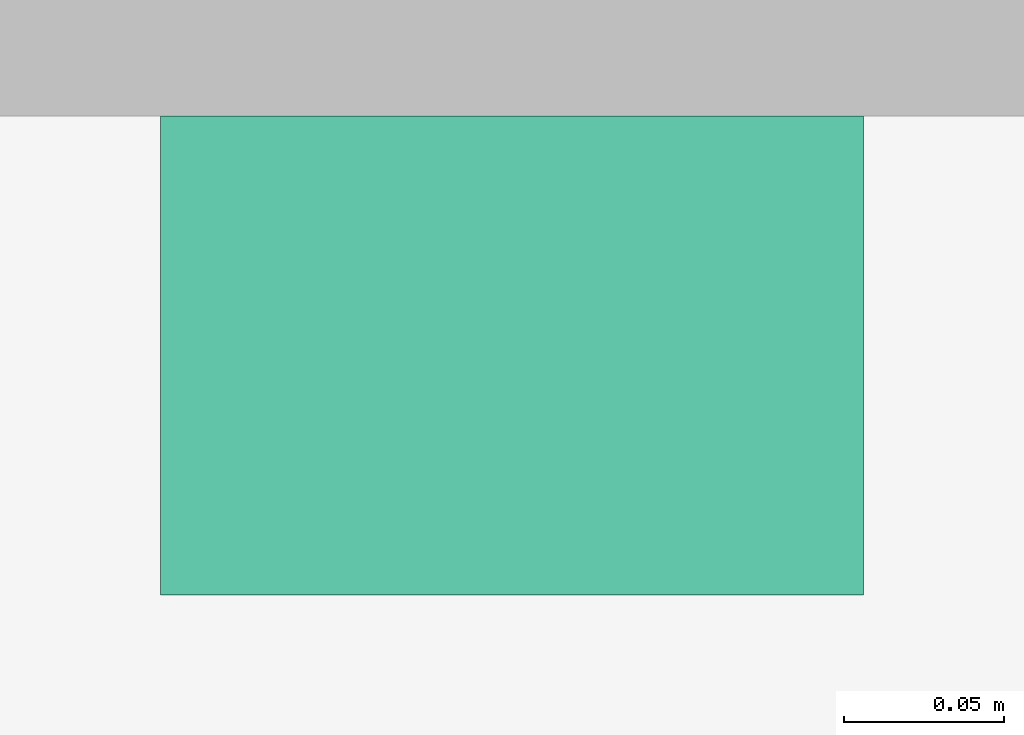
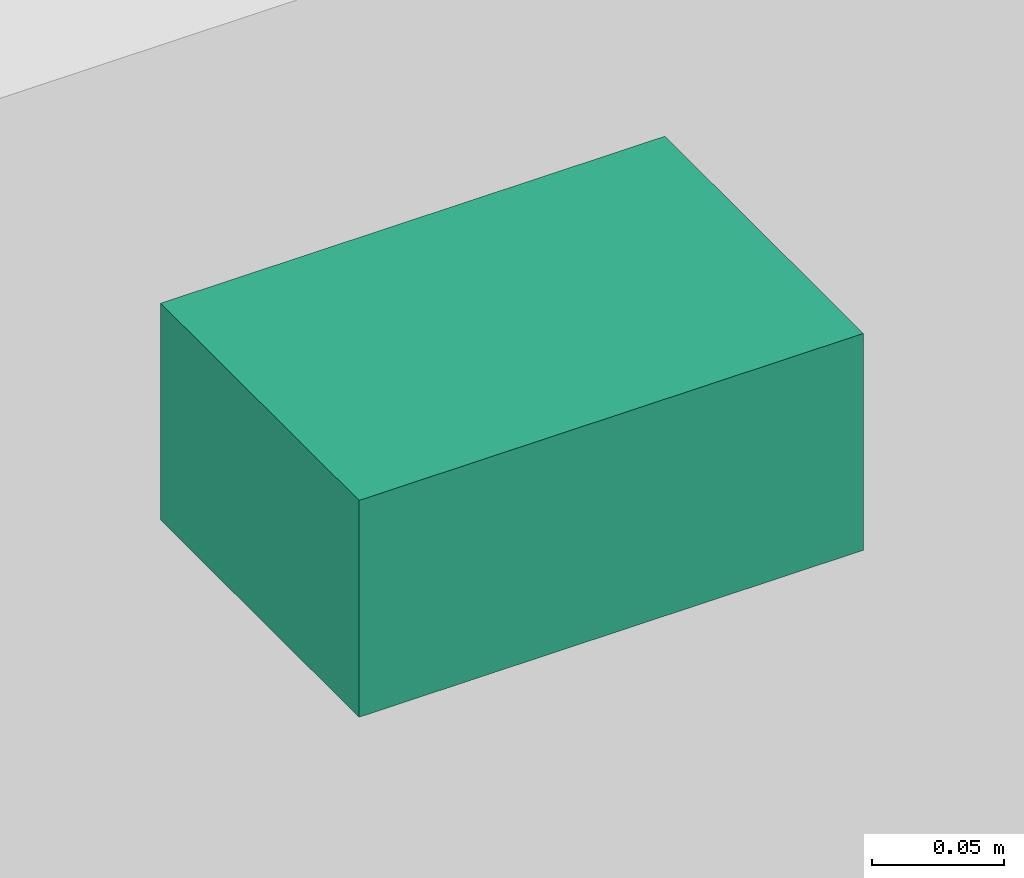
# One storey, part 78 of 128: 1 flow terminal.
"""IFC2X3 building model written with IfcOpenShell, lengths in metres."""

from ifc_helpers import new_model, entity, si_unit, converted_unit, derived_unit, direction, frame, origin, place, context, subcontext, project, spatial, face_set, surface_model, source, transform, mapped, material, type_object, type_shapes, element, save


model = new_model("IFC2X3")

# Units and contexts
model_context = context("Model", 3, precision=1e-05, world=origin(), true_north=direction((6.123031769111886e-17, 1.0)))
body_context = subcontext(model_context, "Body", "Model", "MODEL_VIEW")
ifc_project = project(units=[si_unit("LENGTHUNIT", "METRE"), si_unit("AREAUNIT", "SQUARE_METRE"), converted_unit("PLANEANGLEUNIT", "DEGREE", entity("IfcPlaneAngleMeasure", 0.017453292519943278), si_unit("PLANEANGLEUNIT", "RADIAN"), dimensions=[0, 0, 0, 0, 0, 0, 0]), derived_unit("THERMALTRANSMITTANCEUNIT", [(si_unit("MASSUNIT", "GRAM", prefix="KILO"), 1), (si_unit("THERMODYNAMICTEMPERATUREUNIT", "KELVIN"), -1), (si_unit("TIMEUNIT", "SECOND"), -3)])], contexts=[model_context])

# Site, building, storey
site_placement = place(None, origin())
site = spatial("IfcSite", under=ifc_project, at=site_placement, Name="Default", CompositionType="ELEMENT")
building_placement = place(site_placement, origin())
building = spatial("IfcBuilding", under=site, at=building_placement, CompositionType="ELEMENT")
storey_placement = place(building_placement, origin())
storey = spatial("IfcBuildingStorey", under=building, at=storey_placement, Name="00_RDC CAF", CompositionType="ELEMENT", Elevation=2.4982504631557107e-13)

# Flow terminal
ifc_material = material(Name="ARC - Eq Elec - Blanc")
light_fixture_type = type_object("IfcLightFixtureType", Name="Eq_Elec_Eclairage_secours_BAES:Eq_Elec_Eclairage secours BAES_220x35x100mm", PredefinedType="NOTDEFINED", material=ifc_material)
shared_shape = source(origin(), body_context, "Body", "SurfaceModel", [
    surface_model("IfcFaceBasedSurfaceModel", [(0.02393298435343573, 0.04999999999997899, 0.09396213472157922), (0.022340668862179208, 0.04999999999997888, 0.0857472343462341), (0.018130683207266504, 0.04999999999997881, 0.07955891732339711), (0.012183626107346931, 0.04999999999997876, 0.07496291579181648), (0.005404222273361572, 0.049999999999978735, 0.07133195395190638), (-0.001375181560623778, 0.04999999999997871, 0.06795431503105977), (-0.00732223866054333, 0.04999999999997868, 0.06416653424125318), (-0.011532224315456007, 0.04999999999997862, 0.0593292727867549), (-0.013124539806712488, 0.049999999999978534, 0.052754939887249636), (-0.012243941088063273, 0.04999999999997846, 0.04756785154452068), (-0.009614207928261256, 0.04999999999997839, 0.04328548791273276), (-0.0051991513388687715, 0.04999999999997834, 0.040402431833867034), (0.0010374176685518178, 0.049999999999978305, 0.039340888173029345), (0.007503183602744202, 0.0499999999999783, 0.04029386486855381), (0.012400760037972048, 0.04999999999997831, 0.04242901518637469), (0.015814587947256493, 0.04999999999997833, 0.04456416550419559), (0.018046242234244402, 0.04999999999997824, 0.03870154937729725), (0.015681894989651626, 0.04999999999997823, 0.03700066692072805), (0.011616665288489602, 0.049999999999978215, 0.035094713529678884), (0.00677940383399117, 0.049999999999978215, 0.033707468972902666), (0.0017129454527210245, 0.04999999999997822, 0.03316463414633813), (-0.0074308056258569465, 0.04999999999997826, 0.03451568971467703), (-0.01458416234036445, 0.04999999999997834, 0.03842410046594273), (-0.019204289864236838, 0.04999999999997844, 0.044648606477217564), (-0.0208448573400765, 0.049999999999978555, 0.05292382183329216), (-0.019252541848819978, 0.049999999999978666, 0.06123522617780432), (-0.015042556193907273, 0.04999999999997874, 0.06743560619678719), (-0.009107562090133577, 0.049999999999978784, 0.07205573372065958), (-0.0023160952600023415, 0.04999999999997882, 0.07572288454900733), (0.004475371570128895, 0.049999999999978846, 0.07908846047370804), (0.01041036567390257, 0.04999999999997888, 0.08284005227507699), (0.014620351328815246, 0.04999999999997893, 0.08765318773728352), (0.01621266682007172, 0.04999999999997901, 0.09420339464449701), (0.014921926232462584, 0.04999999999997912, 0.10105517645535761), (0.011315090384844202, 0.04999999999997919, 0.10612163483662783), (0.005802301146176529, 0.04999999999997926, 0.10927007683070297), (-0.0012304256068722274, 0.0499999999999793, 0.11036780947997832), (-0.00948151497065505, 0.049999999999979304, 0.10914944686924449), (-0.015561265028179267, 0.04999999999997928, 0.10650765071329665), (-0.019698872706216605, 0.04999999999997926, 0.10386585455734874), (-0.023932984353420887, 0.049999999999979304, 0.10585624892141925), (-0.023619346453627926, 0.049999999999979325, 0.10796727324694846), (-0.02261811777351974, 0.049999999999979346, 0.10961990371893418), (-0.02009695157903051, 0.04999999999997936, 0.11156204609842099), (-0.015585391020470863, 0.04999999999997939, 0.11382988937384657), (-0.009481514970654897, 0.049999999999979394, 0.11574790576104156), (-0.002171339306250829, 0.04999999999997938, 0.11654406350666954), (0.008299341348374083, 0.049999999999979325, 0.11499999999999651), (0.016586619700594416, 0.04999999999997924, 0.11053669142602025), (0.022002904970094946, 0.049999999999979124, 0.10343158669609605), (0.023932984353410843, -0.014873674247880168, 0.14999999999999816), (0.022340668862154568, -0.006658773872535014, 0.14999999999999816), (0.01813068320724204, -0.000470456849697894, 0.14999999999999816), (0.012183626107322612, 0.004125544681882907, 0.14999999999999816), (0.0054042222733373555, 0.007756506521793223, 0.14999999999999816), (-0.0013751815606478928, 0.011134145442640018, 0.14999999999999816), (-0.007322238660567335, 0.01492192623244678, 0.14999999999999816), (-0.01153222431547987, 0.019759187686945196, 0.14999999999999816), (-0.013124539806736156, 0.0263335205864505, 0.14999999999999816), (-0.012243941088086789, 0.03152060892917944, 0.14999999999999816), (-0.009614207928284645, 0.035802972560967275, 0.14999999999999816), (-0.005199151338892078, 0.03868602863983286, 0.14999999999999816), (0.0010374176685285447, 0.03974757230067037, 0.14999999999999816), (0.007503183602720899, 0.03879459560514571, 0.14999999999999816), (0.012400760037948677, 0.036659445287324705, 0.14999999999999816), (0.015814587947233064, 0.03452429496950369, 0.14999999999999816), (0.018046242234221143, 0.04038691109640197, 0.14999999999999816), (0.015681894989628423, 0.04208779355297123, 0.14999999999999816), (0.011616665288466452, 0.04399374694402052, 0.14999999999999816), (0.006779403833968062, 0.04538099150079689, 0.14999999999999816), (0.0017129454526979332, 0.04592382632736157, 0.14999999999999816), (-0.00743080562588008, 0.04457277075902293, 0.14999999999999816), (-0.014584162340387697, 0.04066436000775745, 0.14999999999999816), (-0.019204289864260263, 0.03443985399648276, 0.14999999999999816), (-0.020844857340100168, 0.026164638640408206, 0.14999999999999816), (-0.019252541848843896, 0.017853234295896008, 0.14999999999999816), (-0.015042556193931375, 0.011652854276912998, 0.14999999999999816), (-0.009107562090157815, 0.007032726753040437, 0.14999999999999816), (-0.002316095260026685, 0.0033655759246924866, 0.14999999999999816), (0.00447537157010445, 0.0, 0.14999999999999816), (0.010410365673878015, -0.0037515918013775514, 0.14999999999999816), (0.014620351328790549, -0.0085647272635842, 0.14999999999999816), (0.016212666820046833, -0.015114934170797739, 0.14999999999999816), (0.014921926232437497, -0.021966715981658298, 0.14999999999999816), (0.011315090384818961, -0.02703317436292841, 0.14999999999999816), (0.005802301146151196, -0.030181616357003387, 0.14999999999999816), (-0.0012304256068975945, -0.03127934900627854, 0.14999999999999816), (-0.009481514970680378, -0.030060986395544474, 0.14999999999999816), (-0.015561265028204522, -0.027419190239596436, 0.14999999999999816), (-0.019698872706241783, -0.02477739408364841, 0.14999999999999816), (-0.023932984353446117, -0.02676778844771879, 0.14999999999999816), (-0.02361934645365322, -0.028878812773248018, 0.14999999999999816), (-0.022618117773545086, -0.030531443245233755, 0.14999999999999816), (-0.02009695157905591, -0.032473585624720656, 0.14999999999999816), (-0.015585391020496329, -0.034741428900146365, 0.14999999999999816), (-0.009481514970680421, -0.03665944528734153, 0.14999999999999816), (-0.0021713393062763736, -0.03745560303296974, 0.14999999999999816), (0.008299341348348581, -0.035911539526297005, 0.14999999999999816), (0.01658661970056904, -0.03144823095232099, 0.14999999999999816), (0.02200290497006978, -0.024343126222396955, 0.14999999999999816), (0.11000000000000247, 0.049999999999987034, 0.14999999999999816), (0.11000000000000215, -0.050000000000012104, 0.14999999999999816), (-0.10999999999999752, -0.05000000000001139, 0.14999999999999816), (-0.1099999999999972, 0.049999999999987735, 0.14999999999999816), (0.11000000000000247, 0.049999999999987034, 0.0), (0.11000000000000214, -0.05000000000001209, 0.0), (-0.10999999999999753, -0.05000000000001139, 0.0), (-0.1099999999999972, 0.049999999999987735, 0.0)], [face_set([[[0, 1, 2, 3, 4, 5, 6, 7, 8, 9, 10, 11, 12, 13, 14, 15, 16, 17, 18, 19, 20, 21, 22, 23, 24, 25, 26, 27, 28, 29, 30, 31, 32, 33, 34, 35, 36, 37, 38, 39, 40, 41, 42, 43, 44, 45, 46, 47, 48, 49]]]), face_set([[[50, 51, 52, 53, 54, 55, 56, 57, 58, 59, 60, 61, 62, 63, 64, 65, 66, 67, 68, 69, 70, 71, 72, 73, 74, 75, 76, 77, 78, 79, 80, 81, 82, 83, 84, 85, 86, 87, 88, 89, 90, 91, 92, 93, 94, 95, 96, 97, 98, 99]]]), face_set([[[100, 101, 102, 103]], [[104, 105, 106, 107]], [[103, 100, 104, 107]], [[102, 103, 107, 106]], [[101, 102, 106, 105]], [[100, 101, 105, 104]]])]),
])
type_shapes(light_fixture_type, [shared_shape])
flow_terminal_placement = place(storey_placement, frame((47.422233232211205, 138.77229831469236, 4.109000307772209), z_axis=(0.0, -1.0, 0.0), x_axis=(1.0, 0.0, 0.0)))
element("IfcFlowTerminal", 1, at=flow_terminal_placement, inside=storey, type_object=light_fixture_type, material=ifc_material, Name="Eq_Elec_Eclairage_secours_BAES:Eq_Elec_Eclairage secours BAES_220x35x100mm", ObjectType="Eq_Elec_Eclairage_secours_BAES:Eq_Elec_Eclairage secours BAES_220x35x100mm", context=body_context, shape_type="MappedRepresentation", body=[
    mapped(shared_shape, transform((0.0, 0.0, 0.0), scale=1.0)),
])

save(model, "model.ifc")
